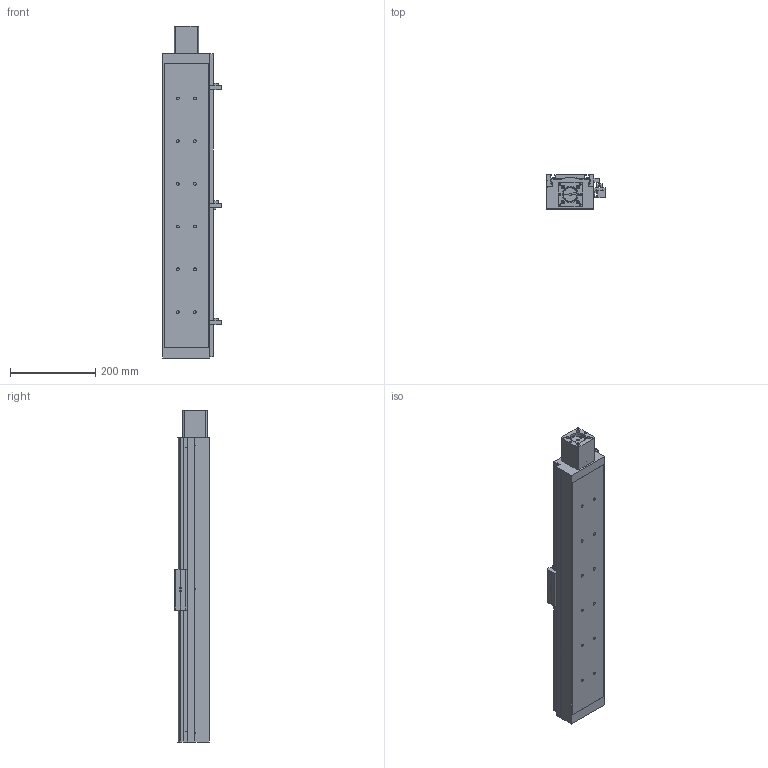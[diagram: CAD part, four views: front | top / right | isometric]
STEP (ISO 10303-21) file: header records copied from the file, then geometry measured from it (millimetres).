
FILE_DESCRIPTION((''),'2;1');
FILE_NAME('E:\libraries\UIA actuator library 2009\standard actuator\UIA110R12(15)DC\UIA110R12(15)DC-ball screw dia.16\UIA110R12(15)DC-_ _ _-R16_ _ step file 20Apr16\UIA110R12(15)DC-550-R16_ _-M23-P13-C10-S.stp','2016-04-20T16:59:46',('h029'),(''),'Autodesk Inventor 11','Autodesk Inventor 11','');
FILE_SCHEMA(('AUTOMOTIVE_DESIGN { 1 0 10303 214 1 1 1 1 }'));
Length unit declared in the file: millimetre
Products named in the file (10): UIA110R12(15)DC-550, ball screw dia.16; body, UIA110R12(15)DC-550,ball screw dia.16; Carriage, UIA110R12(15)DC; Sen Switch, UIA110R12(15)DC; sensor rail, UIA110R12(15)DC-550; SOH-32C; SOH-32C-3; SOH-32C-1; SOH-32C-2; M23 motor mount
Assembly tree (9 placements, depth 3):
  UIA110R12(15)DC-550, ball screw dia.16
    body, UIA110R12(15)DC-550,ball screw dia.16
    Carriage, UIA110R12(15)DC
    Sen Switch, UIA110R12(15)DC
    sensor rail, UIA110R12(15)DC-550
    SOH-32C
      SOH-32C-3
      SOH-32C-1
      SOH-32C-2
    M23 motor mount
Bounding box: 136.5 x 81 x 777 mm (x, y, z)
Volume: 5498307.3 mm3; surface area: 461217.8 mm2
Topology: 8 solids, 8 shells, 603 faces, 1629 edges, 1064 vertices
Faces by surface type: plane 381, cylinder 123, bspline 81, cone 18
Full cylindrical faces by diameter (mm): 2.459 x3, 3.242 x4, 4 x6, 4.5 x4, 5.5 x3, 6.35 x1, 6.5 x12, 7.5 x4, 8 x2, 9.5 x6, 10 x1, 10.5 x12, 21 x1, 32 x3, 37 x1, 38.1 x1, 42 x1, 42.01 x1, 43.5 x1
Entity records: 19444 total; most frequent: CARTESIAN_POINT 4969, DIRECTION 2901, ORIENTED_EDGE 2808, EDGE_CURVE 1404, VERTEX_POINT 991, AXIS2_PLACEMENT_3D 975, VECTOR 951, LINE 951
